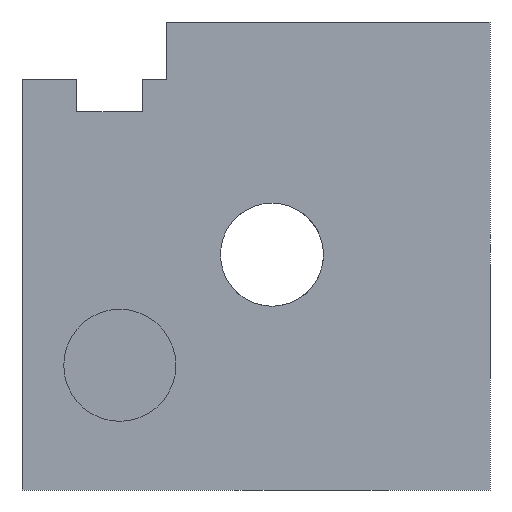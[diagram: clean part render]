
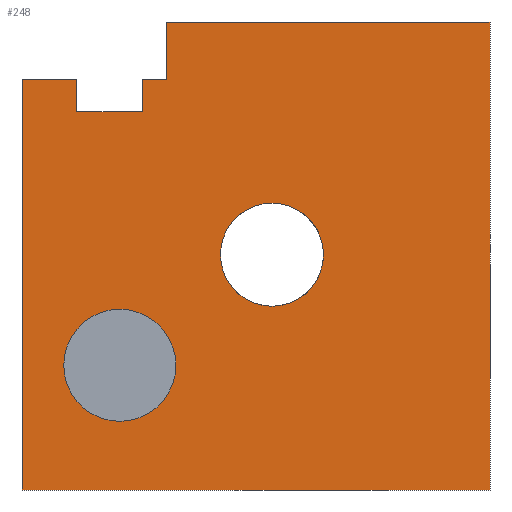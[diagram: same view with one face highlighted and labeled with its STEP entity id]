
A CAD part, front view. The second image highlights one B-rep face of the part: STEP entity #248.
In plain terms, the highlighted planar face has unit normal (0, -1, 0).
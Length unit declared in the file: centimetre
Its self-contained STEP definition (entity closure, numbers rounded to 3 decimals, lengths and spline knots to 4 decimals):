
#2 = CARTESIAN_POINT ( 'NONE',  ( 1000., 0., 1000. ) ) ;
#10 = EDGE_CURVE ( 'NONE', #692, #771, #855, .T. ) ;
#12 = DIRECTION ( 'NONE',  ( -1., 0., 0. ) ) ;
#27 = VERTEX_POINT ( 'NONE', #620 ) ;
#37 = VECTOR ( 'NONE', #1551, 100. ) ;
#62 = VERTEX_POINT ( 'NONE', #895 ) ;
#68 = EDGE_CURVE ( 'NONE', #27, #356, #904, .T. ) ;
#71 = ORIENTED_EDGE ( 'NONE', *, *, #355, .F. ) ;
#81 = CARTESIAN_POINT ( 'NONE',  ( 208.9918, 0., 146.7403 ) ) ;
#83 = VERTEX_POINT ( 'NONE', #304 ) ;
#94 = DIRECTION ( 'NONE',  ( 0., 1., 0. ) ) ;
#149 = CARTESIAN_POINT ( 'NONE',  ( 1000., 0., 1000. ) ) ;
#173 = ORIENTED_EDGE ( 'NONE', *, *, #707, .T. ) ;
#182 = CARTESIAN_POINT ( 'NONE',  ( 257.2204, 0., 807.8472 ) ) ;
#196 = ORIENTED_EDGE ( 'NONE', *, *, #440, .T. ) ;
#211 = AXIS2_PLACEMENT_3D ( 'NONE', #324, #1529, #1410 ) ;
#224 = LINE ( 'NONE', #1307, #1204 ) ;
#247 = ORIENTED_EDGE ( 'NONE', *, *, #68, .T. ) ;
#248 = ADVANCED_FACE ( 'NONE', ( #919, #1026, #1512 ), #443, .F. ) ;
#292 = CIRCLE ( 'NONE', #804, 110.1355 ) ;
#304 = CARTESIAN_POINT ( 'NONE',  ( 534.1481, 0., 392.7024 ) ) ;
#324 = CARTESIAN_POINT ( 'NONE',  ( 208.9918, 0., 266.5457 ) ) ;
#338 = VERTEX_POINT ( 'NONE', #1417 ) ;
#355 = EDGE_CURVE ( 'NONE', #970, #659, #528, .T. ) ;
#356 = VERTEX_POINT ( 'NONE', #689 ) ;
#363 = CARTESIAN_POINT ( 'NONE',  ( 208.9918, 0., 386.3511 ) ) ;
#370 = EDGE_LOOP ( 'NONE', ( #196, #1283, #816, #1183, #613, #451, #610, #173, #247, #1199 ) ) ;
#394 = VECTOR ( 'NONE', #862, 100. ) ;
#434 = EDGE_CURVE ( 'NONE', #659, #970, #799, .T. ) ;
#440 = EDGE_CURVE ( 'NONE', #668, #338, #710, .T. ) ;
#443 = PLANE ( 'NONE',  #607 ) ;
#444 = CARTESIAN_POINT ( 'NONE',  ( 208.9918, 0., 266.5457 ) ) ;
#447 = LINE ( 'NONE', #1264, #1230 ) ;
#451 = ORIENTED_EDGE ( 'NONE', *, *, #1032, .F. ) ;
#457 = CARTESIAN_POINT ( 'NONE',  ( 534.1481, 0., 502.8379 ) ) ;
#463 = DIRECTION ( 'NONE',  ( 0., -1., 0. ) ) ;
#476 = VECTOR ( 'NONE', #578, 100. ) ;
#490 = CARTESIAN_POINT ( 'NONE',  ( 309.488, 0., 876.6994 ) ) ;
#496 = DIRECTION ( 'NONE',  ( 0., 0., -1. ) ) ;
#517 = CARTESIAN_POINT ( 'NONE',  ( 1000., 0., 0. ) ) ;
#528 = CIRCLE ( 'NONE', #1414, 119.8054 ) ;
#532 = LINE ( 'NONE', #930, #927 ) ;
#568 = DIRECTION ( 'NONE',  ( 0., 0., 1. ) ) ;
#569 = CARTESIAN_POINT ( 'NONE',  ( 116.9925, 0., 807.8472 ) ) ;
#578 = DIRECTION ( 'NONE',  ( 1., 0., 0. ) ) ;
#607 = AXIS2_PLACEMENT_3D ( 'NONE', #926, #1157, #568 ) ;
#610 = ORIENTED_EDGE ( 'NONE', *, *, #1267, .F. ) ;
#613 = ORIENTED_EDGE ( 'NONE', *, *, #10, .F. ) ;
#619 = CARTESIAN_POINT ( 'NONE',  ( 309.488, 0., 1000. ) ) ;
#620 = CARTESIAN_POINT ( 'NONE',  ( 257.2204, 0., 876.6994 ) ) ;
#635 = EDGE_CURVE ( 'NONE', #83, #845, #1226, .T. ) ;
#659 = VERTEX_POINT ( 'NONE', #81 ) ;
#668 = VERTEX_POINT ( 'NONE', #823 ) ;
#682 = DIRECTION ( 'NONE',  ( 0., 1., 0. ) ) ;
#689 = CARTESIAN_POINT ( 'NONE',  ( 257.2204, 0., 807.8472 ) ) ;
#692 = VERTEX_POINT ( 'NONE', #2 ) ;
#695 = VERTEX_POINT ( 'NONE', #1419 ) ;
#698 = DIRECTION ( 'NONE',  ( 0., 0., -1. ) ) ;
#707 = EDGE_CURVE ( 'NONE', #1329, #27, #1067, .T. ) ;
#710 = LINE ( 'NONE', #569, #1174 ) ;
#771 = VERTEX_POINT ( 'NONE', #517 ) ;
#779 = EDGE_CURVE ( 'NONE', #338, #695, #985, .T. ) ;
#799 = CIRCLE ( 'NONE', #211, 119.8054 ) ;
#804 = AXIS2_PLACEMENT_3D ( 'NONE', #457, #94, #1068 ) ;
#816 = ORIENTED_EDGE ( 'NONE', *, *, #1294, .T. ) ;
#823 = CARTESIAN_POINT ( 'NONE',  ( 116.9925, 0., 807.8472 ) ) ;
#837 = ORIENTED_EDGE ( 'NONE', *, *, #635, .T. ) ;
#840 = DIRECTION ( 'NONE',  ( -1., 0., 0. ) ) ;
#845 = VERTEX_POINT ( 'NONE', #890 ) ;
#855 = LINE ( 'NONE', #149, #981 ) ;
#862 = DIRECTION ( 'NONE',  ( 1., 0., 0. ) ) ;
#890 = CARTESIAN_POINT ( 'NONE',  ( 534.1481, 0., 612.9734 ) ) ;
#895 = CARTESIAN_POINT ( 'NONE',  ( 0., 0., 0. ) ) ;
#904 = LINE ( 'NONE', #182, #1490 ) ;
#914 = DIRECTION ( 'NONE',  ( 0., 0., 1. ) ) ;
#919 = FACE_BOUND ( 'NONE', #1304, .T. ) ;
#926 = CARTESIAN_POINT ( 'NONE',  ( 0., 0., 1000. ) ) ;
#927 = VECTOR ( 'NONE', #1037, 100. ) ;
#930 = CARTESIAN_POINT ( 'NONE',  ( 0., 0., 1000. ) ) ;
#970 = VERTEX_POINT ( 'NONE', #363 ) ;
#981 = VECTOR ( 'NONE', #496, 100. ) ;
#985 = LINE ( 'NONE', #1483, #1333 ) ;
#1026 = FACE_BOUND ( 'NONE', #1098, .T. ) ;
#1030 = CARTESIAN_POINT ( 'NONE',  ( 309.488, 0., 876.6994 ) ) ;
#1032 = EDGE_CURVE ( 'NONE', #1191, #692, #1564, .T. ) ;
#1037 = DIRECTION ( 'NONE',  ( 0., 0., -1. ) ) ;
#1067 = LINE ( 'NONE', #490, #37 ) ;
#1068 = DIRECTION ( 'NONE',  ( 0., 0., 1. ) ) ;
#1079 = AXIS2_PLACEMENT_3D ( 'NONE', #1263, #682, #914 ) ;
#1084 = EDGE_CURVE ( 'NONE', #356, #668, #224, .T. ) ;
#1098 = EDGE_LOOP ( 'NONE', ( #1136, #71 ) ) ;
#1122 = EDGE_CURVE ( 'NONE', #62, #771, #1362, .T. ) ;
#1136 = ORIENTED_EDGE ( 'NONE', *, *, #434, .F. ) ;
#1157 = DIRECTION ( 'NONE',  ( 0., 1., 0. ) ) ;
#1168 = DIRECTION ( 'NONE',  ( 0., 0., 1. ) ) ;
#1174 = VECTOR ( 'NONE', #1559, 100. ) ;
#1183 = ORIENTED_EDGE ( 'NONE', *, *, #1122, .T. ) ;
#1191 = VERTEX_POINT ( 'NONE', #619 ) ;
#1199 = ORIENTED_EDGE ( 'NONE', *, *, #1084, .T. ) ;
#1200 = ORIENTED_EDGE ( 'NONE', *, *, #1479, .T. ) ;
#1204 = VECTOR ( 'NONE', #840, 100. ) ;
#1226 = CIRCLE ( 'NONE', #1079, 110.1355 ) ;
#1230 = VECTOR ( 'NONE', #1168, 100. ) ;
#1263 = CARTESIAN_POINT ( 'NONE',  ( 534.1481, 0., 502.8379 ) ) ;
#1264 = CARTESIAN_POINT ( 'NONE',  ( 309.488, 0., 876.6994 ) ) ;
#1267 = EDGE_CURVE ( 'NONE', #1329, #1191, #447, .T. ) ;
#1283 = ORIENTED_EDGE ( 'NONE', *, *, #779, .T. ) ;
#1294 = EDGE_CURVE ( 'NONE', #695, #62, #532, .T. ) ;
#1304 = EDGE_LOOP ( 'NONE', ( #1200, #837 ) ) ;
#1307 = CARTESIAN_POINT ( 'NONE',  ( 116.9925, 0., 807.8472 ) ) ;
#1329 = VERTEX_POINT ( 'NONE', #1030 ) ;
#1333 = VECTOR ( 'NONE', #12, 100. ) ;
#1362 = LINE ( 'NONE', #1369, #394 ) ;
#1369 = CARTESIAN_POINT ( 'NONE',  ( 0., 0., 0. ) ) ;
#1410 = DIRECTION ( 'NONE',  ( 0., 0., -1. ) ) ;
#1414 = AXIS2_PLACEMENT_3D ( 'NONE', #444, #463, #698 ) ;
#1417 = CARTESIAN_POINT ( 'NONE',  ( 116.9925, 0., 876.6994 ) ) ;
#1419 = CARTESIAN_POINT ( 'NONE',  ( 0., 0., 876.6994 ) ) ;
#1425 = CARTESIAN_POINT ( 'NONE',  ( 0., 0., 1000. ) ) ;
#1479 = EDGE_CURVE ( 'NONE', #845, #83, #292, .T. ) ;
#1483 = CARTESIAN_POINT ( 'NONE',  ( 309.488, 0., 876.6994 ) ) ;
#1490 = VECTOR ( 'NONE', #1520, 100. ) ;
#1512 = FACE_OUTER_BOUND ( 'NONE', #370, .T. ) ;
#1520 = DIRECTION ( 'NONE',  ( 0., 0., -1. ) ) ;
#1529 = DIRECTION ( 'NONE',  ( 0., -1., 0. ) ) ;
#1551 = DIRECTION ( 'NONE',  ( -1., 0., 0. ) ) ;
#1559 = DIRECTION ( 'NONE',  ( 0., 0., 1. ) ) ;
#1564 = LINE ( 'NONE', #1425, #476 ) ;
